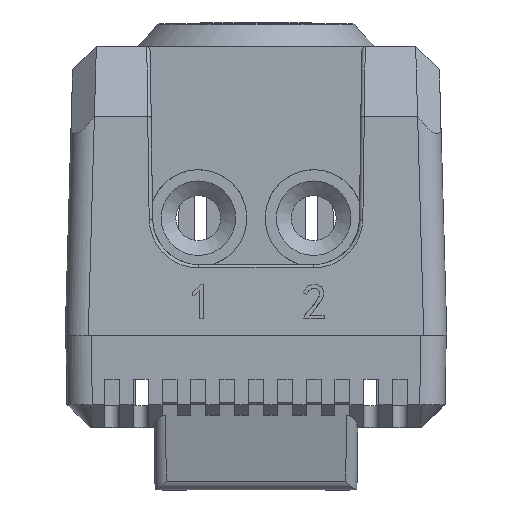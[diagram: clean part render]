
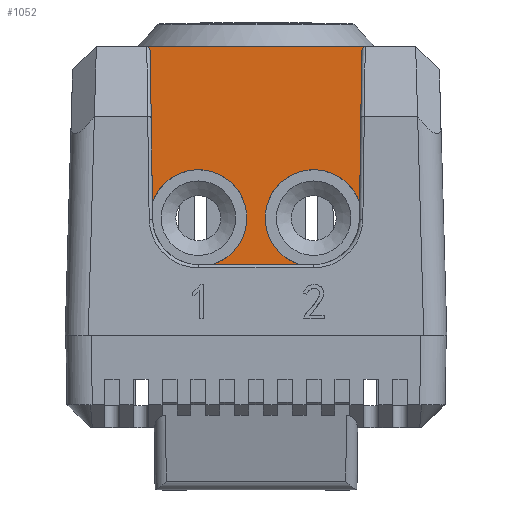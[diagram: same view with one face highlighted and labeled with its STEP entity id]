
A CAD part, front view. The second image highlights one B-rep face of the part: STEP entity #1052.
In plain terms, the highlighted planar face has unit normal (0, -1, 0.001).
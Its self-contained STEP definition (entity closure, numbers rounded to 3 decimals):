
#141=ELLIPSE('',#21724,0.412,0.3);
#142=ELLIPSE('',#21727,4.2,4.2);
#143=ELLIPSE('',#21730,4.2,4.2);
#146=ELLIPSE('',#21743,0.412,0.3);
#1052=ADVANCED_FACE('',(#2897),#2013,.F.);
#2013=PLANE('',#21797);
#2897=FACE_OUTER_BOUND('',#3956,.T.);
#3956=EDGE_LOOP('',(#6341,#6342,#6343,#6344,#6345,#6346,#6347,#6348));
#6341=ORIENTED_EDGE('',*,*,#13516,.T.);
#6342=ORIENTED_EDGE('',*,*,#13900,.T.);
#6343=ORIENTED_EDGE('',*,*,#13881,.F.);
#6344=ORIENTED_EDGE('',*,*,#13879,.F.);
#6345=ORIENTED_EDGE('',*,*,#13877,.F.);
#6346=ORIENTED_EDGE('',*,*,#13875,.T.);
#6347=ORIENTED_EDGE('',*,*,#13871,.T.);
#6348=ORIENTED_EDGE('',*,*,#13870,.F.);
#11429=VERTEX_POINT('',#29342);
#11430=VERTEX_POINT('',#29344);
#11678=VERTEX_POINT('',#30051);
#11681=VERTEX_POINT('',#30059);
#11682=VERTEX_POINT('',#30064);
#11683=VERTEX_POINT('',#30069);
#11684=VERTEX_POINT('',#30073);
#11685=VERTEX_POINT('',#30077);
#13516=EDGE_CURVE('',#11430,#11429,#16529,.T.);
#13870=EDGE_CURVE('',#11430,#11678,#141,.T.);
#13871=EDGE_CURVE('',#11681,#11678,#16834,.T.);
#13875=EDGE_CURVE('',#11682,#11681,#142,.T.);
#13877=EDGE_CURVE('',#11682,#11683,#16839,.T.);
#13879=EDGE_CURVE('',#11683,#11684,#143,.T.);
#13881=EDGE_CURVE('',#11684,#11685,#16842,.T.);
#13900=EDGE_CURVE('',#11429,#11685,#146,.T.);
#16529=LINE('',#29343,#19198);
#16834=LINE('',#30058,#19503);
#16839=LINE('',#30068,#19508);
#16842=LINE('',#30076,#19511);
#19198=VECTOR('',#23603,1.);
#19503=VECTOR('',#24198,1.);
#19508=VECTOR('',#24209,1.);
#19511=VECTOR('',#24218,1.);
#21724=AXIS2_PLACEMENT_3D('',#30056,#24194,#24195);
#21727=AXIS2_PLACEMENT_3D('',#30065,#24204,#24205);
#21730=AXIS2_PLACEMENT_3D('',#30072,#24213,#24214);
#21743=AXIS2_PLACEMENT_3D('',#30128,#24253,#24254);
#21797=AXIS2_PLACEMENT_3D('',#30286,#24409,#24410);
#23603=DIRECTION('',(-1.,0.,0.));
#24194=DIRECTION('',(0.,-1.,0.));
#24195=DIRECTION('',(0.014,0.,1.));
#24198=DIRECTION('',(0.014,0.,1.));
#24204=DIRECTION('',(0.,1.,0.));
#24205=DIRECTION('',(0.,0.,-1.));
#24209=DIRECTION('',(-1.,0.,0.));
#24213=DIRECTION('',(0.,-1.,0.));
#24214=DIRECTION('',(0.,0.,-1.));
#24218=DIRECTION('',(-0.014,0.,1.));
#24253=DIRECTION('',(0.,1.,0.));
#24254=DIRECTION('',(-0.014,0.,1.));
#24409=DIRECTION('',(0.,1.,0.));
#24410=DIRECTION('',(1.,0.,0.));
#29342=CARTESIAN_POINT('',(257.093,311.748,25.175));
#29343=CARTESIAN_POINT('',(309.984,311.748,25.175));
#29344=CARTESIAN_POINT('',(276.041,311.748,25.175));
#30051=CARTESIAN_POINT('',(275.738,311.748,24.767));
#30056=CARTESIAN_POINT('',(276.038,311.748,24.763));
#30058=CARTESIAN_POINT('',(275.742,311.748,25.045));
#30059=CARTESIAN_POINT('',(275.553,311.741,11.633));
#30064=CARTESIAN_POINT('',(270.368,311.739,6.286));
#30065=CARTESIAN_POINT('',(271.567,311.74,10.311));
#30068=CARTESIAN_POINT('',(271.534,311.739,6.286));
#30069=CARTESIAN_POINT('',(262.766,311.739,6.286));
#30072=CARTESIAN_POINT('',(261.567,311.74,10.311));
#30073=CARTESIAN_POINT('',(257.581,311.741,11.633));
#30076=CARTESIAN_POINT('',(257.601,311.74,10.227));
#30077=CARTESIAN_POINT('',(257.396,311.748,24.767));
#30128=CARTESIAN_POINT('',(257.096,311.748,24.763));
#30286=CARTESIAN_POINT('',(266.567,311.748,25.175));
